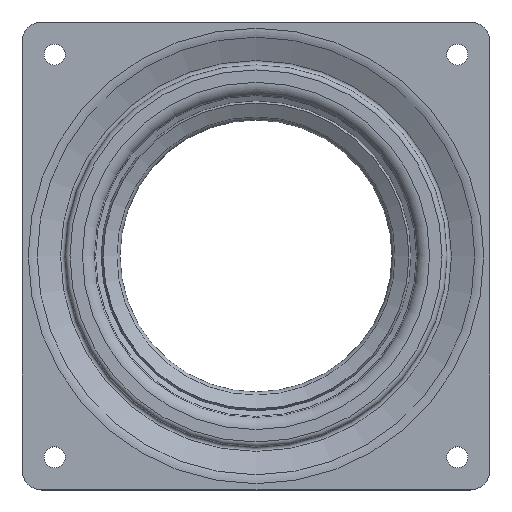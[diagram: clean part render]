
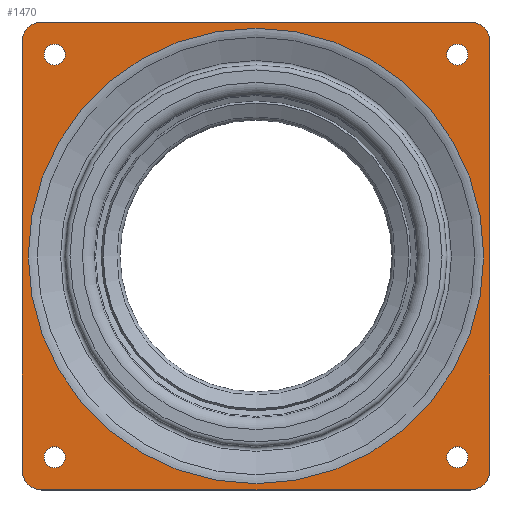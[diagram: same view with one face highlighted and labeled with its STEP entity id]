
A CAD part, top view. The second image highlights one B-rep face of the part: STEP entity #1470.
In plain terms, the highlighted planar face has unit normal (0, 0, 1).
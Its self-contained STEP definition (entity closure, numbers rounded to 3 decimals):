
#162=FACE_BOUND('',#400,.T.);
#163=FACE_BOUND('',#401,.T.);
#164=FACE_BOUND('',#402,.T.);
#165=FACE_BOUND('',#403,.T.);
#166=FACE_BOUND('',#404,.T.);
#216=PLANE('',#1736);
#278=FACE_OUTER_BOUND('',#399,.T.);
#399=EDGE_LOOP('',(#1289,#1290,#1291,#1292,#1293,#1294,#1295,#1296));
#400=EDGE_LOOP('',(#1297));
#401=EDGE_LOOP('',(#1298));
#402=EDGE_LOOP('',(#1299));
#403=EDGE_LOOP('',(#1300));
#404=EDGE_LOOP('',(#1301));
#478=LINE('',#2539,#530);
#483=LINE('',#2557,#535);
#494=LINE('',#2634,#546);
#496=LINE('',#2638,#548);
#530=VECTOR('',#2047,10.);
#535=VECTOR('',#2066,10.);
#546=VECTOR('',#2163,10.);
#548=VECTOR('',#2167,10.);
#602=CIRCLE('',#1675,4.);
#604=CIRCLE('',#1678,2.125);
#606=CIRCLE('',#1682,4.);
#609=CIRCLE('',#1686,2.125);
#610=CIRCLE('',#1689,4.);
#613=CIRCLE('',#1693,2.125);
#637=CIRCLE('',#1733,4.);
#638=CIRCLE('',#1735,2.125);
#639=CIRCLE('',#1737,45.8);
#729=VERTEX_POINT('',#2523);
#730=VERTEX_POINT('',#2524);
#733=VERTEX_POINT('',#2532);
#735=VERTEX_POINT('',#2538);
#737=VERTEX_POINT('',#2544);
#740=VERTEX_POINT('',#2552);
#741=VERTEX_POINT('',#2556);
#743=VERTEX_POINT('',#2562);
#746=VERTEX_POINT('',#2570);
#764=VERTEX_POINT('',#2633);
#765=VERTEX_POINT('',#2637);
#766=VERTEX_POINT('',#2643);
#767=VERTEX_POINT('',#2647);
#922=EDGE_CURVE('',#729,#730,#602,.T.);
#926=EDGE_CURVE('',#733,#733,#604,.T.);
#929=EDGE_CURVE('',#735,#730,#478,.T.);
#932=EDGE_CURVE('',#737,#735,#606,.T.);
#937=EDGE_CURVE('',#740,#740,#609,.T.);
#938=EDGE_CURVE('',#729,#741,#483,.T.);
#941=EDGE_CURVE('',#741,#743,#610,.T.);
#946=EDGE_CURVE('',#746,#746,#613,.T.);
#976=EDGE_CURVE('',#764,#743,#494,.T.);
#978=EDGE_CURVE('',#737,#765,#496,.T.);
#980=EDGE_CURVE('',#765,#764,#637,.T.);
#981=EDGE_CURVE('',#766,#766,#638,.T.);
#983=EDGE_CURVE('',#767,#767,#639,.T.);
#1289=ORIENTED_EDGE('',*,*,#938,.T.);
#1290=ORIENTED_EDGE('',*,*,#941,.T.);
#1291=ORIENTED_EDGE('',*,*,#976,.F.);
#1292=ORIENTED_EDGE('',*,*,#980,.F.);
#1293=ORIENTED_EDGE('',*,*,#978,.F.);
#1294=ORIENTED_EDGE('',*,*,#932,.T.);
#1295=ORIENTED_EDGE('',*,*,#929,.T.);
#1296=ORIENTED_EDGE('',*,*,#922,.F.);
#1297=ORIENTED_EDGE('',*,*,#937,.T.);
#1298=ORIENTED_EDGE('',*,*,#926,.F.);
#1299=ORIENTED_EDGE('',*,*,#946,.T.);
#1300=ORIENTED_EDGE('',*,*,#983,.F.);
#1301=ORIENTED_EDGE('',*,*,#981,.F.);
#1470=ADVANCED_FACE('',(#278,#162,#163,#164,#165,#166),#216,.T.);
#1675=AXIS2_PLACEMENT_3D('',#2525,#2032,#2033);
#1678=AXIS2_PLACEMENT_3D('',#2533,#2040,#2041);
#1682=AXIS2_PLACEMENT_3D('',#2545,#2052,#2053);
#1686=AXIS2_PLACEMENT_3D('',#2554,#2062,#2063);
#1689=AXIS2_PLACEMENT_3D('',#2563,#2071,#2072);
#1693=AXIS2_PLACEMENT_3D('',#2572,#2081,#2082);
#1733=AXIS2_PLACEMENT_3D('',#2641,#2171,#2172);
#1735=AXIS2_PLACEMENT_3D('',#2644,#2175,#2176);
#1736=AXIS2_PLACEMENT_3D('',#2646,#2178,#2179);
#1737=AXIS2_PLACEMENT_3D('',#2648,#2180,#2181);
#2032=DIRECTION('center_axis',(0.,0.,-1.));
#2033=DIRECTION('ref_axis',(-1.,0.,0.));
#2040=DIRECTION('center_axis',(0.,0.,1.));
#2041=DIRECTION('ref_axis',(-1.,0.,0.));
#2047=DIRECTION('',(0.,-1.,0.));
#2052=DIRECTION('center_axis',(0.,0.,1.));
#2053=DIRECTION('ref_axis',(-1.,0.,0.));
#2062=DIRECTION('center_axis',(0.,0.,-1.));
#2063=DIRECTION('ref_axis',(-1.,0.,0.));
#2066=DIRECTION('',(1.,0.,0.));
#2071=DIRECTION('center_axis',(0.,0.,1.));
#2072=DIRECTION('ref_axis',(1.,0.,0.));
#2081=DIRECTION('center_axis',(0.,0.,-1.));
#2082=DIRECTION('ref_axis',(1.,0.,0.));
#2163=DIRECTION('',(0.,-1.,0.));
#2167=DIRECTION('',(1.,0.,0.));
#2171=DIRECTION('center_axis',(0.,0.,-1.));
#2172=DIRECTION('ref_axis',(1.,0.,0.));
#2175=DIRECTION('center_axis',(0.,0.,1.));
#2176=DIRECTION('ref_axis',(1.,0.,0.));
#2178=DIRECTION('center_axis',(0.,0.,1.));
#2179=DIRECTION('ref_axis',(1.,0.,0.));
#2180=DIRECTION('center_axis',(0.,0.,1.));
#2181=DIRECTION('ref_axis',(1.,0.,0.));
#2523=CARTESIAN_POINT('',(-43.05,-47.05,9.));
#2524=CARTESIAN_POINT('',(-47.05,-43.05,9.));
#2525=CARTESIAN_POINT('Origin',(-43.05,-43.05,9.));
#2532=CARTESIAN_POINT('',(-38.375,-40.5,9.));
#2533=CARTESIAN_POINT('Origin',(-40.5,-40.5,9.));
#2538=CARTESIAN_POINT('',(-47.05,43.05,9.));
#2539=CARTESIAN_POINT('',(-47.05,11.763,9.));
#2544=CARTESIAN_POINT('',(-43.05,47.05,9.));
#2545=CARTESIAN_POINT('Origin',(-43.05,43.05,9.));
#2552=CARTESIAN_POINT('',(-38.375,40.5,9.));
#2554=CARTESIAN_POINT('Origin',(-40.5,40.5,9.));
#2556=CARTESIAN_POINT('',(43.05,-47.05,9.));
#2557=CARTESIAN_POINT('',(33.288,-47.05,9.));
#2562=CARTESIAN_POINT('',(47.05,-43.05,9.));
#2563=CARTESIAN_POINT('Origin',(43.05,-43.05,9.));
#2570=CARTESIAN_POINT('',(38.375,-40.5,9.));
#2572=CARTESIAN_POINT('Origin',(40.5,-40.5,9.));
#2633=CARTESIAN_POINT('',(47.05,43.05,9.));
#2634=CARTESIAN_POINT('',(47.05,11.763,9.));
#2637=CARTESIAN_POINT('',(43.05,47.05,9.));
#2638=CARTESIAN_POINT('',(33.288,47.05,9.));
#2641=CARTESIAN_POINT('Origin',(43.05,43.05,9.));
#2643=CARTESIAN_POINT('',(38.375,40.5,9.));
#2644=CARTESIAN_POINT('Origin',(40.5,40.5,9.));
#2646=CARTESIAN_POINT('Origin',(23.525,23.525,9.));
#2647=CARTESIAN_POINT('',(-45.8,0.,9.));
#2648=CARTESIAN_POINT('Origin',(0.,0.,9.));
